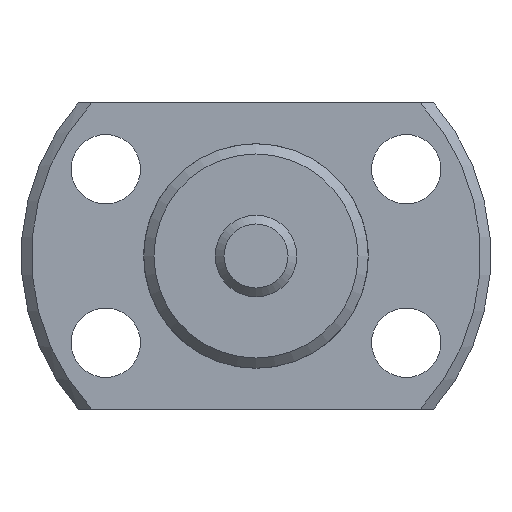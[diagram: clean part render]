
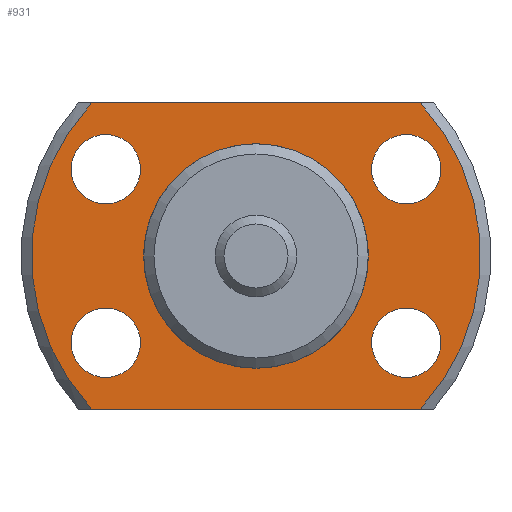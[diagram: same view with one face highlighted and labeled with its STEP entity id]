
A CAD part, left-side view. The second image highlights one B-rep face of the part: STEP entity #931.
In plain terms, the highlighted planar face has unit normal (-1, 0, 0).
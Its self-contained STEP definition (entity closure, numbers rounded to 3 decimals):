
#77=LINE('',#1613,#119);
#78=LINE('',#1617,#120);
#119=VECTOR('',#1287,1000.);
#120=VECTOR('',#1290,1000.);
#270=ORIENTED_EDGE('',*,*,#478,.T.);
#271=ORIENTED_EDGE('',*,*,#479,.T.);
#272=ORIENTED_EDGE('',*,*,#480,.T.);
#273=ORIENTED_EDGE('',*,*,#481,.T.);
#274=ORIENTED_EDGE('',*,*,#467,.F.);
#275=ORIENTED_EDGE('',*,*,#482,.F.);
#276=ORIENTED_EDGE('',*,*,#483,.F.);
#277=ORIENTED_EDGE('',*,*,#484,.F.);
#278=ORIENTED_EDGE('',*,*,#461,.T.);
#461=EDGE_CURVE('',#574,#574,#645,.T.);
#467=EDGE_CURVE('',#579,#580,#648,.T.);
#478=EDGE_CURVE('',#589,#589,#654,.T.);
#479=EDGE_CURVE('',#590,#590,#655,.T.);
#480=EDGE_CURVE('',#591,#591,#656,.T.);
#481=EDGE_CURVE('',#592,#592,#657,.T.);
#482=EDGE_CURVE('',#593,#579,#77,.T.);
#483=EDGE_CURVE('',#594,#593,#658,.T.);
#484=EDGE_CURVE('',#580,#594,#78,.T.);
#574=VERTEX_POINT('',#1556);
#579=VERTEX_POINT('',#1570);
#580=VERTEX_POINT('',#1572);
#589=VERTEX_POINT('',#1606);
#590=VERTEX_POINT('',#1608);
#591=VERTEX_POINT('',#1610);
#592=VERTEX_POINT('',#1612);
#593=VERTEX_POINT('',#1614);
#594=VERTEX_POINT('',#1616);
#645=CIRCLE('',#1044,5.3);
#648=CIRCLE('',#1048,11.);
#654=CIRCLE('',#1059,1.7);
#655=CIRCLE('',#1060,1.7);
#656=CIRCLE('',#1061,1.7);
#657=CIRCLE('',#1062,1.7);
#658=CIRCLE('',#1063,11.);
#720=EDGE_LOOP('',(#270));
#721=EDGE_LOOP('',(#271));
#722=EDGE_LOOP('',(#272));
#723=EDGE_LOOP('',(#273));
#724=EDGE_LOOP('',(#274,#275,#276,#277));
#725=EDGE_LOOP('',(#278));
#818=FACE_BOUND('',#720,.T.);
#819=FACE_BOUND('',#721,.T.);
#820=FACE_BOUND('',#722,.T.);
#821=FACE_BOUND('',#723,.T.);
#822=FACE_BOUND('',#724,.T.);
#823=FACE_BOUND('',#725,.T.);
#883=PLANE('',#1058);
#931=ADVANCED_FACE('',(#818,#819,#820,#821,#822,#823),#883,.F.);
#1044=AXIS2_PLACEMENT_3D('',#1555,#1245,#1246);
#1048=AXIS2_PLACEMENT_3D('',#1571,#1255,#1256);
#1058=AXIS2_PLACEMENT_3D('',#1604,#1277,#1278);
#1059=AXIS2_PLACEMENT_3D('',#1605,#1279,#1280);
#1060=AXIS2_PLACEMENT_3D('',#1607,#1281,#1282);
#1061=AXIS2_PLACEMENT_3D('',#1609,#1283,#1284);
#1062=AXIS2_PLACEMENT_3D('',#1611,#1285,#1286);
#1063=AXIS2_PLACEMENT_3D('',#1615,#1288,#1289);
#1245=DIRECTION('',(1.,0.,0.));
#1246=DIRECTION('',(0.,0.,-1.));
#1255=DIRECTION('',(1.,0.,0.));
#1256=DIRECTION('',(0.,0.,-1.));
#1277=DIRECTION('',(1.,0.,0.));
#1278=DIRECTION('',(0.,0.,-1.));
#1279=DIRECTION('',(1.,0.,0.));
#1280=DIRECTION('',(0.,0.,-1.));
#1281=DIRECTION('',(1.,0.,0.));
#1282=DIRECTION('',(0.,0.,-1.));
#1283=DIRECTION('',(1.,0.,0.));
#1284=DIRECTION('',(0.,0.,-1.));
#1285=DIRECTION('',(1.,0.,0.));
#1286=DIRECTION('',(0.,0.,-1.));
#1287=DIRECTION('',(0.,1.,0.));
#1288=DIRECTION('',(1.,0.,0.));
#1289=DIRECTION('',(0.,0.,-1.));
#1290=DIRECTION('',(0.,-1.,0.));
#1555=CARTESIAN_POINT('',(15.,0.,0.));
#1556=CARTESIAN_POINT('',(15.,0.,-5.3));
#1570=CARTESIAN_POINT('',(15.,8.047,-7.5));
#1571=CARTESIAN_POINT('',(15.,0.,0.));
#1572=CARTESIAN_POINT('',(15.,8.047,7.5));
#1604=CARTESIAN_POINT('',(15.,5.3,0.));
#1605=CARTESIAN_POINT('',(15.,-7.361,-4.25));
#1606=CARTESIAN_POINT('',(15.,-7.361,-5.95));
#1607=CARTESIAN_POINT('',(15.,-7.361,4.25));
#1608=CARTESIAN_POINT('',(15.,-7.361,2.55));
#1609=CARTESIAN_POINT('',(15.,7.361,-4.25));
#1610=CARTESIAN_POINT('',(15.,7.361,-5.95));
#1611=CARTESIAN_POINT('',(15.,7.361,4.25));
#1612=CARTESIAN_POINT('',(15.,7.361,2.55));
#1613=CARTESIAN_POINT('',(15.,-16.5,-7.5));
#1614=CARTESIAN_POINT('',(15.,-8.047,-7.5));
#1615=CARTESIAN_POINT('',(15.,0.,0.));
#1616=CARTESIAN_POINT('',(15.,-8.047,7.5));
#1617=CARTESIAN_POINT('',(15.,16.5,7.5));
